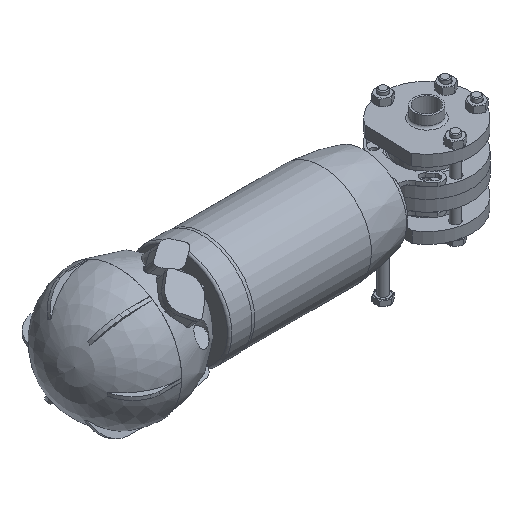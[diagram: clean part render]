
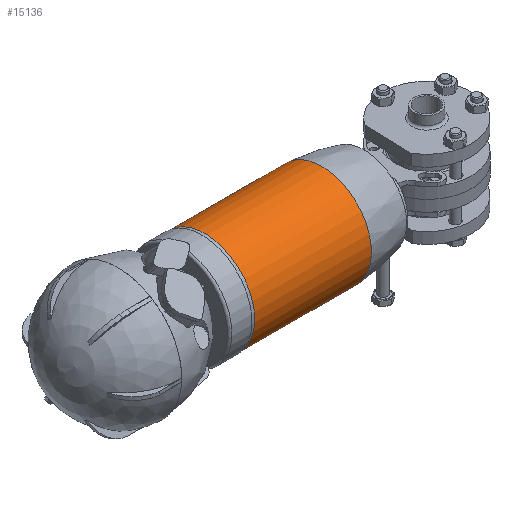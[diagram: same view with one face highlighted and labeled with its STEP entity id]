
A CAD part, isometric view. The second image highlights one B-rep face of the part: STEP entity #15136.
In plain terms, the highlighted cylindrical face has radius 44.5 mm (diameter 89 mm), a full revolution.
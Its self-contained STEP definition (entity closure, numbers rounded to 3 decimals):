
#2506=FACE_OUTER_BOUND('',#3377,.T.);
#3377=EDGE_LOOP('',(#10651,#10652,#10653,#10654,#10655));
#4280=LINE('',#23399,#5102);
#5102=VECTOR('',#18484,44.5);
#5941=CIRCLE('',#16276,44.5);
#5942=CIRCLE('',#16278,44.5);
#5943=CIRCLE('',#16279,44.5);
#6651=VERTEX_POINT('',#23392);
#6652=VERTEX_POINT('',#23396);
#6653=VERTEX_POINT('',#23397);
#8220=EDGE_CURVE('',#6651,#6651,#5941,.T.);
#8222=EDGE_CURVE('',#6652,#6653,#5942,.T.);
#8223=EDGE_CURVE('',#6652,#6651,#4280,.T.);
#8224=EDGE_CURVE('',#6653,#6652,#5943,.T.);
#10651=ORIENTED_EDGE('',*,*,#8222,.F.);
#10652=ORIENTED_EDGE('',*,*,#8223,.T.);
#10653=ORIENTED_EDGE('',*,*,#8220,.T.);
#10654=ORIENTED_EDGE('',*,*,#8223,.F.);
#10655=ORIENTED_EDGE('',*,*,#8224,.F.);
#15011=CYLINDRICAL_SURFACE('',#16277,44.5);
#15136=ADVANCED_FACE('',(#2506),#15011,.T.);
#16276=AXIS2_PLACEMENT_3D('',#23393,#18477,#18478);
#16277=AXIS2_PLACEMENT_3D('',#23395,#18480,#18481);
#16278=AXIS2_PLACEMENT_3D('',#23398,#18482,#18483);
#16279=AXIS2_PLACEMENT_3D('',#23400,#18485,#18486);
#18477=DIRECTION('center_axis',(0.,0.,-1.));
#18478=DIRECTION('ref_axis',(0.,1.,0.));
#18480=DIRECTION('center_axis',(0.,0.,-1.));
#18481=DIRECTION('ref_axis',(0.,1.,0.));
#18482=DIRECTION('center_axis',(0.,0.,-1.));
#18483=DIRECTION('ref_axis',(0.,1.,0.));
#18484=DIRECTION('',(0.,0.,1.));
#18485=DIRECTION('center_axis',(0.,0.,-1.));
#18486=DIRECTION('ref_axis',(0.,1.,0.));
#23392=CARTESIAN_POINT('',(0.,-44.5,142.5));
#23393=CARTESIAN_POINT('Origin',(0.,0.,142.5));
#23395=CARTESIAN_POINT('Origin',(0.,0.,54.568));
#23396=CARTESIAN_POINT('',(0.,-44.5,38.136));
#23397=CARTESIAN_POINT('',(44.5,0.,38.136));
#23398=CARTESIAN_POINT('Origin',(0.,0.,38.136));
#23399=CARTESIAN_POINT('',(0.,-44.5,54.568));
#23400=CARTESIAN_POINT('Origin',(0.,0.,38.136));
